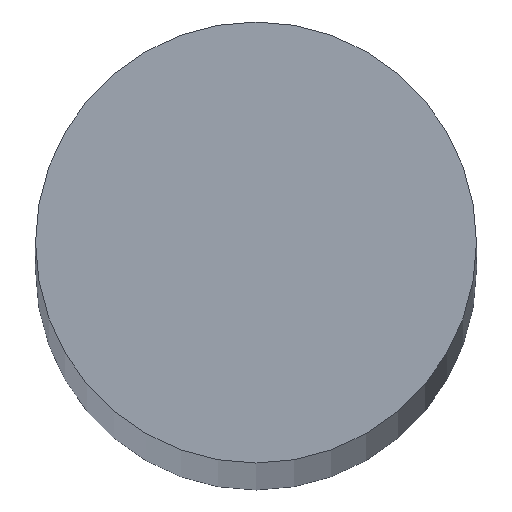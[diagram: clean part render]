
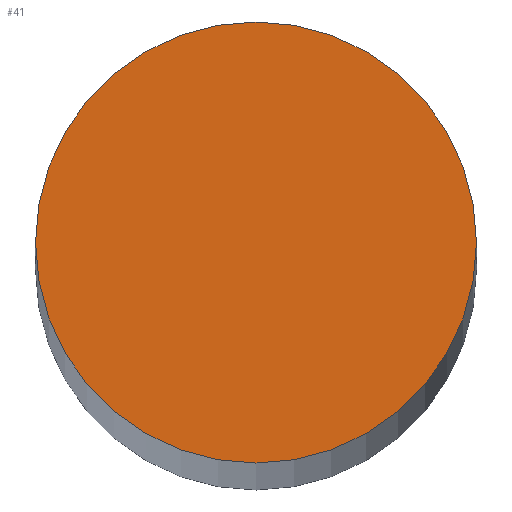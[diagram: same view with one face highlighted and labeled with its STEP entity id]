
A CAD part, top view. The second image highlights one B-rep face of the part: STEP entity #41.
In plain terms, the highlighted planar face has unit normal (0, 0, 1).
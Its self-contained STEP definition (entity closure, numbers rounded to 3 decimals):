
#16=PLANE('',#66);
#19=FACE_OUTER_BOUND('',#22,.T.);
#22=EDGE_LOOP('',(#37));
#25=CIRCLE('',#63,10.);
#27=VERTEX_POINT('',#82);
#29=EDGE_CURVE('',#27,#27,#25,.T.);
#37=ORIENTED_EDGE('',*,*,#29,.T.);
#41=ADVANCED_FACE('',(#19),#16,.T.);
#63=AXIS2_PLACEMENT_3D('',#83,#71,#72);
#66=AXIS2_PLACEMENT_3D('',#88,#78,#79);
#71=DIRECTION('center_axis',(0.,0.,1.));
#72=DIRECTION('ref_axis',(-1.,0.,0.));
#78=DIRECTION('center_axis',(0.,0.,1.));
#79=DIRECTION('ref_axis',(1.,0.,0.));
#82=CARTESIAN_POINT('',(10.,0.,700.));
#83=CARTESIAN_POINT('Origin',(0.,0.,700.));
#88=CARTESIAN_POINT('Origin',(0.,0.,700.));
